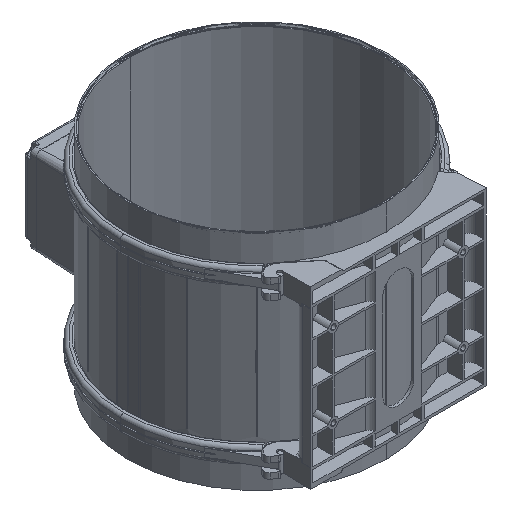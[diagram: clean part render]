
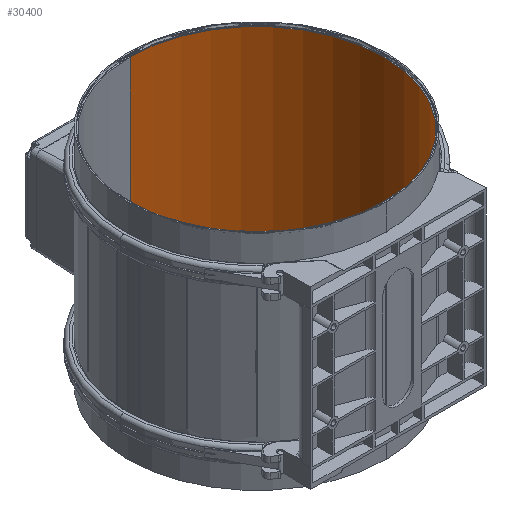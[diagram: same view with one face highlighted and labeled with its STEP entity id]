
A CAD part, isometric view. The second image highlights one B-rep face of the part: STEP entity #30400.
In plain terms, the highlighted cylindrical face has radius 122.055 mm (diameter 244.11 mm), a partial arc.
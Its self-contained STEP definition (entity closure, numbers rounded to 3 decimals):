
#375 = EDGE_CURVE ( 'NONE', #10987, #11438, #27882, .T. ) ;
#377 = EDGE_CURVE ( 'NONE', #11438, #15078, #37840, .T. ) ;
#1433 = AXIS2_PLACEMENT_3D ( 'NONE', #9578, #9560, #9559 ) ;
#2582 = CARTESIAN_POINT ( 'NONE',  ( 4.5, 121.972, -205.533 ) ) ;
#2873 = AXIS2_PLACEMENT_3D ( 'NONE', #6084, #6085, #6086 ) ;
#3169 = AXIS2_PLACEMENT_3D ( 'NONE', #6056, #6057, #6058 ) ;
#3178 = AXIS2_PLACEMENT_3D ( 'NONE', #6077, #6078, #6079 ) ;
#4047 = DIRECTION ( 'NONE',  ( 0., 0., 1. ) ) ;
#4250 = CARTESIAN_POINT ( 'NONE',  ( 0., -122.055, 0. ) ) ;
#5097 = DIRECTION ( 'NONE',  ( 0., 0., 1. ) ) ;
#5782 = CARTESIAN_POINT ( 'NONE',  ( 0., 122.055, 0. ) ) ;
#6054 = CARTESIAN_POINT ( 'NONE',  ( 3.5, 122.005, -214.033 ) ) ;
#6055 = CARTESIAN_POINT ( 'NONE',  ( 3.632, 122.001, -214.033 ) ) ;
#6056 = CARTESIAN_POINT ( 'NONE',  ( 0., 0., -214.033 ) ) ;
#6057 = DIRECTION ( 'NONE',  ( 0., 0., -1. ) ) ;
#6058 = DIRECTION ( 'NONE',  ( 0., 1., 0. ) ) ;
#6060 = CARTESIAN_POINT ( 'NONE',  ( 3.762, 121.997, -214.007 ) ) ;
#6061 = CARTESIAN_POINT ( 'NONE',  ( 4.004, 121.989, -213.907 ) ) ;
#6063 = CARTESIAN_POINT ( 'NONE',  ( 4.115, 121.986, -213.833 ) ) ;
#6064 = CARTESIAN_POINT ( 'NONE',  ( 4.391, 121.976, -213.557 ) ) ;
#6065 = CARTESIAN_POINT ( 'NONE',  ( 4.5, 121.972, -213.298 ) ) ;
#6066 = CARTESIAN_POINT ( 'NONE',  ( 4.5, 121.972, -213.033 ) ) ;
#6077 = CARTESIAN_POINT ( 'NONE',  ( 0., 0., -282.813 ) ) ;
#6078 = DIRECTION ( 'NONE',  ( 0., 0., -1. ) ) ;
#6079 = DIRECTION ( 'NONE',  ( 0., 1., 0. ) ) ;
#6084 = CARTESIAN_POINT ( 'NONE',  ( 0., 0., -70.213 ) ) ;
#6085 = DIRECTION ( 'NONE',  ( 0., 0., -1. ) ) ;
#6086 = DIRECTION ( 'NONE',  ( 1., 0., 0. ) ) ;
#7074 = LINE ( 'NONE', #4250, #7079 ) ;
#7079 = VECTOR ( 'NONE', #4047, 1000. ) ;
#7195 = LINE ( 'NONE', #35059, #7198 ) ;
#7198 = VECTOR ( 'NONE', #34912, 1000. ) ;
#7825 = LINE ( 'NONE', #5782, #7843 ) ;
#7843 = VECTOR ( 'NONE', #5097, 1000. ) ;
#9559 = DIRECTION ( 'NONE',  ( 0., -1., 0. ) ) ;
#9560 = DIRECTION ( 'NONE',  ( 0., 0., 1. ) ) ;
#9578 = CARTESIAN_POINT ( 'NONE',  ( 0., 0., 0. ) ) ;
#10987 = VERTEX_POINT ( 'NONE', #33503 ) ;
#11008 = VERTEX_POINT ( 'NONE', #21092 ) ;
#11438 = VERTEX_POINT ( 'NONE', #2582 ) ;
#13722 = EDGE_LOOP ( 'NONE', ( #18953, #19045, #19116, #18957, #19107, #18800, #18796, #18789, #18795 ) ) ;
#13942 = CARTESIAN_POINT ( 'NONE',  ( 0., -122.055, -282.813 ) ) ;
#14971 = VERTEX_POINT ( 'NONE', #25519 ) ;
#15059 = VERTEX_POINT ( 'NONE', #25318 ) ;
#15078 = VERTEX_POINT ( 'NONE', #25555 ) ;
#15260 = VERTEX_POINT ( 'NONE', #25651 ) ;
#15279 = VERTEX_POINT ( 'NONE', #24661 ) ;
#15373 = VERTEX_POINT ( 'NONE', #13942 ) ;
#17530 = CIRCLE ( 'NONE', #3178, 122.055 ) ;
#17550 = CIRCLE ( 'NONE', #3169, 122.055 ) ;
#17564 = CIRCLE ( 'NONE', #2873, 122.055 ) ;
#18789 = ORIENTED_EDGE ( 'NONE', *, *, #36237, .F. ) ;
#18795 = ORIENTED_EDGE ( 'NONE', *, *, #36236, .F. ) ;
#18796 = ORIENTED_EDGE ( 'NONE', *, *, #375, .F. ) ;
#18800 = ORIENTED_EDGE ( 'NONE', *, *, #377, .F. ) ;
#18953 = ORIENTED_EDGE ( 'NONE', *, *, #29480, .F. ) ;
#18957 = ORIENTED_EDGE ( 'NONE', *, *, #36245, .F. ) ;
#19045 = ORIENTED_EDGE ( 'NONE', *, *, #36241, .T. ) ;
#19107 = ORIENTED_EDGE ( 'NONE', *, *, #28570, .F. ) ;
#19116 = ORIENTED_EDGE ( 'NONE', *, *, #28159, .T. ) ;
#19142 = FACE_OUTER_BOUND ( 'NONE', #13722, .T. ) ;
#19143 = CYLINDRICAL_SURFACE ( 'NONE', #1433, 122.055 ) ;
#21092 = CARTESIAN_POINT ( 'NONE',  ( 3.5, 122.005, -214.033 ) ) ;
#24661 = CARTESIAN_POINT ( 'NONE',  ( 0., -122.055, -70.213 ) ) ;
#25318 = CARTESIAN_POINT ( 'NONE',  ( 0., 122.055, -214.033 ) ) ;
#25519 = CARTESIAN_POINT ( 'NONE',  ( 0., 122.055, -70.213 ) ) ;
#25555 = CARTESIAN_POINT ( 'NONE',  ( 0., 122.055, -201.033 ) ) ;
#25651 = CARTESIAN_POINT ( 'NONE',  ( 0., 122.055, -282.813 ) ) ;
#27688 = B_SPLINE_CURVE_WITH_KNOTS ( 'NONE', 3,
 ( #6054, #6055, #6060, #6061, #6063, #6064, #6065, #6066 ),
 .UNSPECIFIED., .F., .F.,
 ( 4, 2, 2, 4 ),
 ( 0., 0., 0.001, 0.002 ),
 .UNSPECIFIED. ) ;
#27809 = VECTOR ( 'NONE', #35244, 1000. ) ;
#27882 = LINE ( 'NONE', #35194, #27809 ) ;
#28159 = EDGE_CURVE ( 'NONE', #15373, #15279, #7074, .T. ) ;
#28570 = EDGE_CURVE ( 'NONE', #15078, #14971, #7195, .T. ) ;
#29480 = EDGE_CURVE ( 'NONE', #15260, #15059, #7825, .T. ) ;
#30400 = ADVANCED_FACE ( 'NONE', ( #19142 ), #19143, .F. ) ;
#33503 = CARTESIAN_POINT ( 'NONE',  ( 4.5, 121.972, -213.033 ) ) ;
#34912 = DIRECTION ( 'NONE',  ( 0., 0., 1. ) ) ;
#35059 = CARTESIAN_POINT ( 'NONE',  ( 0., 122.055, 0. ) ) ;
#35167 = CARTESIAN_POINT ( 'NONE',  ( 4.5, 121.972, -205.236 ) ) ;
#35168 = CARTESIAN_POINT ( 'NONE',  ( 4.357, 121.977, -204.369 ) ) ;
#35169 = CARTESIAN_POINT ( 'NONE',  ( 1.996, 122.039, -201.49 ) ) ;
#35184 = CARTESIAN_POINT ( 'NONE',  ( 1.455, 122.047, -201.265 ) ) ;
#35194 = CARTESIAN_POINT ( 'NONE',  ( 4.5, 121.972, -419.023 ) ) ;
#35244 = DIRECTION ( 'NONE',  ( 0., 0., 1. ) ) ;
#35252 = CARTESIAN_POINT ( 'NONE',  ( 4.045, 121.988, -203.539 ) ) ;
#35336 = CARTESIAN_POINT ( 'NONE',  ( 0.591, 122.054, -201.063 ) ) ;
#35373 = CARTESIAN_POINT ( 'NONE',  ( 1.172, 122.05, -201.179 ) ) ;
#35422 = CARTESIAN_POINT ( 'NONE',  ( 4.27, 121.98, -204.084 ) ) ;
#35437 = CARTESIAN_POINT ( 'NONE',  ( 3.39, 122.008, -202.56 ) ) ;
#35503 = CARTESIAN_POINT ( 'NONE',  ( 2.749, 122.024, -201.959 ) ) ;
#35511 = CARTESIAN_POINT ( 'NONE',  ( 2.976, 122.019, -202.145 ) ) ;
#35548 = CARTESIAN_POINT ( 'NONE',  ( 3.58, 122.003, -202.792 ) ) ;
#35553 = CARTESIAN_POINT ( 'NONE',  ( 4.471, 121.973, -204.944 ) ) ;
#35616 = CARTESIAN_POINT ( 'NONE',  ( 3.907, 121.993, -203.281 ) ) ;
#35800 = CARTESIAN_POINT ( 'NONE',  ( 0., 122.055, -201.033 ) ) ;
#35836 = CARTESIAN_POINT ( 'NONE',  ( 0.297, 122.055, -201.033 ) ) ;
#35902 = CARTESIAN_POINT ( 'NONE',  ( 4.5, 121.972, -205.533 ) ) ;
#35971 = CARTESIAN_POINT ( 'NONE',  ( 2.258, 122.034, -201.63 ) ) ;
#36236 = EDGE_CURVE ( 'NONE', #15059, #11008, #17550, .T. ) ;
#36237 = EDGE_CURVE ( 'NONE', #11008, #10987, #27688, .T. ) ;
#36241 = EDGE_CURVE ( 'NONE', #15260, #15373, #17530, .T. ) ;
#36245 = EDGE_CURVE ( 'NONE', #14971, #15279, #17564, .T. ) ;
#37840 = B_SPLINE_CURVE_WITH_KNOTS ( 'NONE', 3,
 ( #35902, #35167, #35553, #35168, #35422, #35252, #35616, #35548, #35437, #35511, #35503, #35971, #35169, #35184, #35373, #35336, #35836, #35800 ),
 .UNSPECIFIED., .F., .F.,
 ( 4, 2, 2, 2, 2, 2, 2, 2, 4 ),
 ( 0., 0.001, 0.002, 0.003, 0.004, 0.004, 0.005, 0.006, 0.007 ),
 .UNSPECIFIED. ) ;
